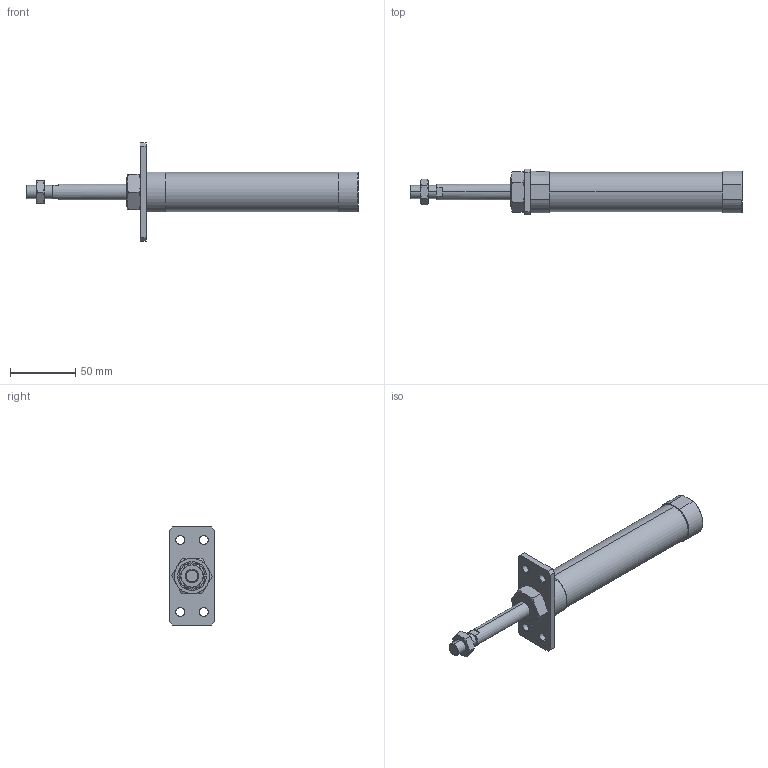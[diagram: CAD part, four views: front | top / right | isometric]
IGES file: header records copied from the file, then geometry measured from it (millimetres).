
Start section: SolidWorks IGES file using analytic representation for surfaces
Global section: file name: C:\Users\Toshiba\Desktop\JGND0-25-50-A.IGS; native system: SolidWorks 2014; preprocessor: SolidWorks 2014; author: Toshiba; date: 160804.100958; units: millimetre
Bounding box: 254 x 35 x 75 mm (x, y, z)
Surface area: 30396.6 mm2 (no closed solid volume)
Topology: 0 solids, 0 shells, 105 faces, 1918 edges, 1916 vertices
Faces by surface type: bspline 69, revolution 36
